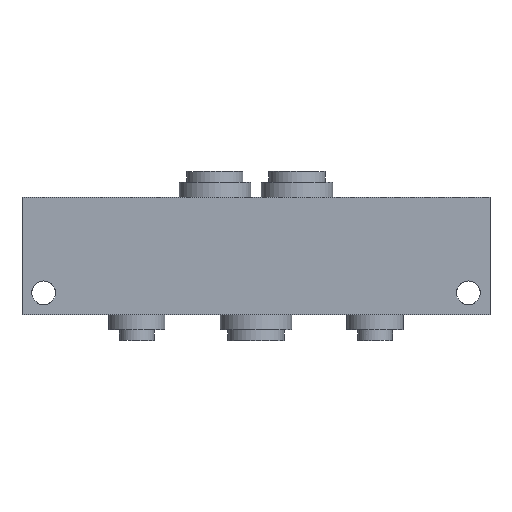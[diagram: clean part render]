
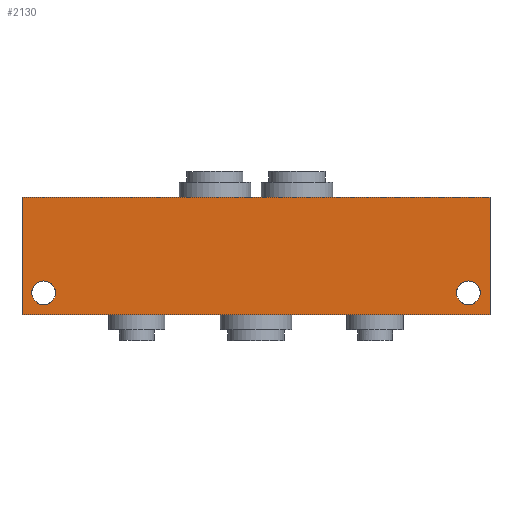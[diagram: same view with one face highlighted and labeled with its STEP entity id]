
A CAD part, front view. The second image highlights one B-rep face of the part: STEP entity #2130.
In plain terms, the highlighted planar face has unit normal (0, -1, 0).
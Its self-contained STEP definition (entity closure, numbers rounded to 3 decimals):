
#22=DIRECTION('',(1.,0.,0.));
#23=VECTOR('',#22,108.);
#24=CARTESIAN_POINT('',(-54.,0.,-13.5));
#25=LINE('',#24,#23);
#104=DIRECTION('',(0.,0.,1.));
#105=VECTOR('',#104,27.);
#106=CARTESIAN_POINT('',(-54.,0.,-13.5));
#107=LINE('',#106,#105);
#108=CARTESIAN_POINT('',(-49.,0.,-8.5));
#109=DIRECTION('',(0.,1.,0.));
#110=DIRECTION('',(0.,0.,-1.));
#111=AXIS2_PLACEMENT_3D('',#108,#109,#110);
#113=CARTESIAN_POINT('',(-49.,0.,-8.5));
#114=DIRECTION('',(0.,1.,0.));
#115=DIRECTION('',(0.,0.,1.));
#116=AXIS2_PLACEMENT_3D('',#113,#114,#115);
#118=CARTESIAN_POINT('',(49.,0.,-8.5));
#119=DIRECTION('',(0.,1.,0.));
#120=DIRECTION('',(0.,0.,-1.));
#121=AXIS2_PLACEMENT_3D('',#118,#119,#120);
#123=CARTESIAN_POINT('',(49.,0.,-8.5));
#124=DIRECTION('',(0.,1.,0.));
#125=DIRECTION('',(0.,0.,1.));
#126=AXIS2_PLACEMENT_3D('',#123,#124,#125);
#348=DIRECTION('',(0.,0.,1.));
#349=VECTOR('',#348,27.);
#350=CARTESIAN_POINT('',(54.,0.,-13.5));
#351=LINE('',#350,#349);
#352=DIRECTION('',(1.,0.,0.));
#353=VECTOR('',#352,108.);
#354=CARTESIAN_POINT('',(-54.,0.,13.5));
#355=LINE('',#354,#353);
#1678=CARTESIAN_POINT('',(-54.,0.,-13.5));
#1679=CARTESIAN_POINT('',(54.,0.,-13.5));
#1680=VERTEX_POINT('',#1678);
#1681=VERTEX_POINT('',#1679);
#1694=CARTESIAN_POINT('',(-54.,0.,13.5));
#1695=CARTESIAN_POINT('',(54.,0.,13.5));
#1696=VERTEX_POINT('',#1694);
#1697=VERTEX_POINT('',#1695);
#1726=CARTESIAN_POINT('',(-49.,0.,-11.25));
#1727=CARTESIAN_POINT('',(-49.,0.,-5.75));
#1728=VERTEX_POINT('',#1726);
#1729=VERTEX_POINT('',#1727);
#1730=CARTESIAN_POINT('',(49.,0.,-11.25));
#1731=CARTESIAN_POINT('',(49.,0.,-5.75));
#1732=VERTEX_POINT('',#1730);
#1733=VERTEX_POINT('',#1731);
#2104=CARTESIAN_POINT('',(-54.,0.,-13.5));
#2105=DIRECTION('',(0.,-1.,0.));
#2106=DIRECTION('',(1.,0.,0.));
#2107=AXIS2_PLACEMENT_3D('',#2104,#2105,#2106);
#2108=PLANE('',#2107);
#2109=ORIENTED_EDGE('',*,*,#2055,.F.);
#2111=ORIENTED_EDGE('',*,*,#2110,.T.);
#2113=ORIENTED_EDGE('',*,*,#2112,.T.);
#2115=ORIENTED_EDGE('',*,*,#2114,.F.);
#2116=EDGE_LOOP('',(#2109,#2111,#2113,#2115));
#2117=FACE_OUTER_BOUND('',#2116,.F.);
#2119=ORIENTED_EDGE('',*,*,#2118,.F.);
#2121=ORIENTED_EDGE('',*,*,#2120,.F.);
#2122=EDGE_LOOP('',(#2119,#2121));
#2123=FACE_BOUND('',#2122,.F.);
#2125=ORIENTED_EDGE('',*,*,#2124,.F.);
#2127=ORIENTED_EDGE('',*,*,#2126,.F.);
#2128=EDGE_LOOP('',(#2125,#2127));
#2129=FACE_BOUND('',#2128,.F.);
#2130=ADVANCED_FACE('',(#2117,#2123,#2129),#2108,.T.);
#112=CIRCLE('',#111,2.75);
#117=CIRCLE('',#116,2.75);
#122=CIRCLE('',#121,2.75);
#127=CIRCLE('',#126,2.75);
#2055=EDGE_CURVE('',#1680,#1681,#25,.T.);
#2110=EDGE_CURVE('',#1680,#1696,#107,.T.);
#2112=EDGE_CURVE('',#1696,#1697,#355,.T.);
#2114=EDGE_CURVE('',#1681,#1697,#351,.T.);
#2118=EDGE_CURVE('',#1728,#1729,#112,.T.);
#2120=EDGE_CURVE('',#1729,#1728,#117,.T.);
#2124=EDGE_CURVE('',#1732,#1733,#122,.T.);
#2126=EDGE_CURVE('',#1733,#1732,#127,.T.);
